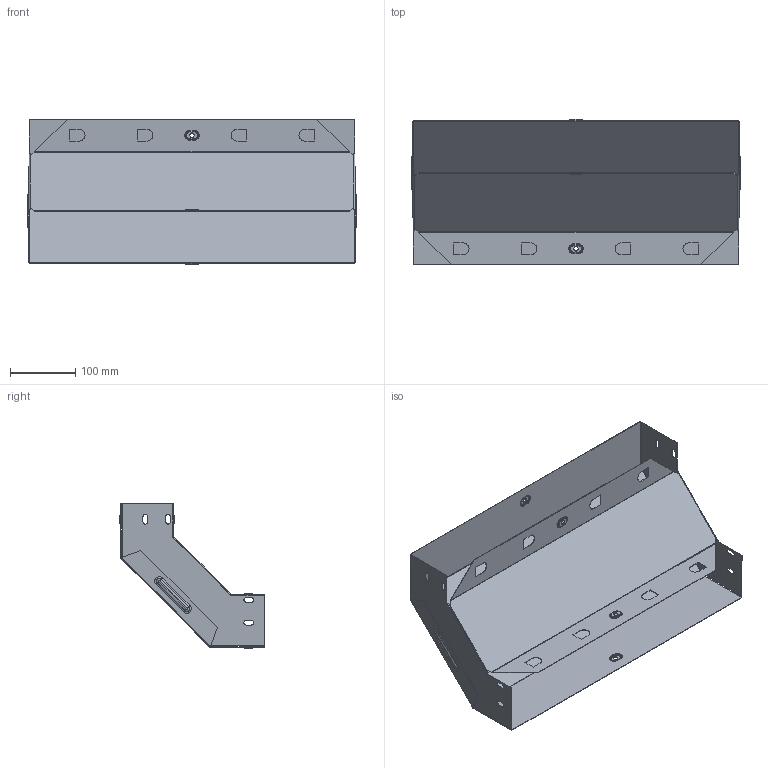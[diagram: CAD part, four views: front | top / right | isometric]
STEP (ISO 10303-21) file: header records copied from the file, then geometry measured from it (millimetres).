
FILE_DESCRIPTION (( 'STEP AP214' ), '1' );
FILE_NAME ('vo9080500_捘.STEP', '2019-06-10T09:07:49', ( '砐錪賧瘔蠈錪 Windows' ), ( '' ), 'SwSTEP 2.0', 'SolidWorks 2018', '' );
FILE_SCHEMA (( 'AUTOMOTIVE_DESIGN' ));
Length unit declared in the file: millimetre
Products named in the file (1): vo9080500_捘
Bounding box: 505.6 x 222.3 x 222.3 mm (x, y, z)
Volume: 271421.6 mm3; surface area: 682660.1 mm2
Topology: 2 solids, 2 shells, 312 faces, 756 edges, 464 vertices
Faces by surface type: plane 124, cylinder 116, torus 64, bspline 8
Entity records: 9355 total; most frequent: CARTESIAN_POINT 1781, DIRECTION 1646, ORIENTED_EDGE 1512, EDGE_CURVE 756, AXIS2_PLACEMENT_3D 617, VERTEX_POINT 464, LINE 412, VECTOR 412
